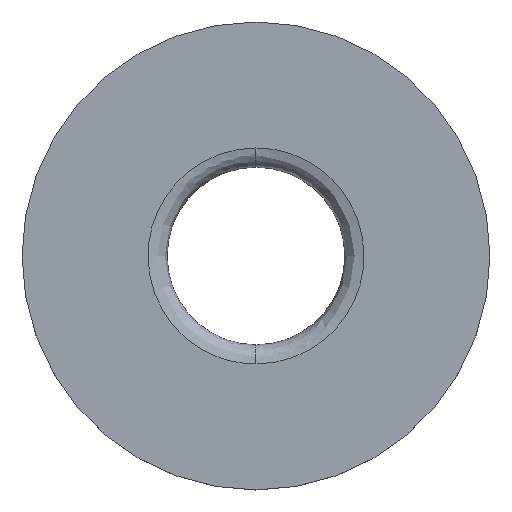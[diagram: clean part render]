
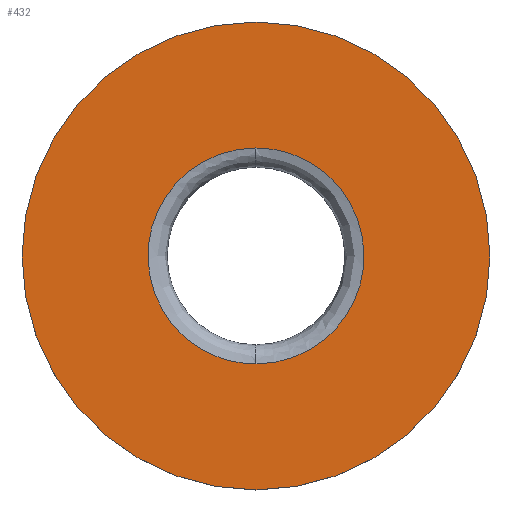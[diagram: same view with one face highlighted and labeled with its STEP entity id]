
A CAD part, top view. The second image highlights one B-rep face of the part: STEP entity #432.
In plain terms, the highlighted planar face has unit normal (0, 0, 1).
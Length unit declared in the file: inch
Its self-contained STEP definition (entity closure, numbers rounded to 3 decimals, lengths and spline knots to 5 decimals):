
#9 = VERTEX_POINT ( 'NONE', #387 ) ;
#15 = DIRECTION ( 'NONE',  ( 1., 0., 0. ) ) ;
#20 = ORIENTED_EDGE ( 'NONE', *, *, #405, .F. ) ;
#36 = DIRECTION ( 'NONE',  ( 0., 0., -1. ) ) ;
#42 = EDGE_CURVE ( 'NONE', #139, #9, #317, .T. ) ;
#45 = DIRECTION ( 'NONE',  ( 0., 0., 1. ) ) ;
#51 = CIRCLE ( 'NONE', #207, 0.4875 ) ;
#53 = CARTESIAN_POINT ( 'NONE',  ( 6.75, 2.66375, 12.64075 ) ) ;
#55 = CARTESIAN_POINT ( 'NONE',  ( 6.2625, 3., 12.64075 ) ) ;
#65 = VERTEX_POINT ( 'NONE', #55 ) ;
#68 = CARTESIAN_POINT ( 'NONE',  ( 6.75, 2.775, 12.64075 ) ) ;
#70 = DIRECTION ( 'NONE',  ( 0., 0., -1. ) ) ;
#104 = ORIENTED_EDGE ( 'NONE', *, *, #260, .F. ) ;
#106 = CARTESIAN_POINT ( 'NONE',  ( 6.3, 3.225, 12.64075 ) ) ;
#111 = ORIENTED_EDGE ( 'NONE', *, *, #363, .F. ) ;
#120 = PLANE ( 'NONE',  #320 ) ;
#139 = VERTEX_POINT ( 'NONE', #331 ) ;
#148 = CARTESIAN_POINT ( 'NONE',  ( 7.2, 3.225, 12.64075 ) ) ;
#168 = CARTESIAN_POINT ( 'NONE',  ( 7.2375, 3., 12.64075 ) ) ;
#191 = CARTESIAN_POINT ( 'NONE',  ( 6.75, 3.225, 12.64075 ) ) ;
#207 = AXIS2_PLACEMENT_3D ( 'NONE', #431, #70, #278 ) ;
#221 = FACE_BOUND ( 'NONE', #433, .T. ) ;
#238 = CARTESIAN_POINT ( 'NONE',  ( 6.3, 2.775, 12.64075 ) ) ;
#257 = CARTESIAN_POINT ( 'NONE',  ( 7.2, 2.775, 12.64075 ) ) ;
#260 = EDGE_CURVE ( 'NONE', #381, #65, #355, .T. ) ;
#276 = AXIS2_PLACEMENT_3D ( 'NONE', #382, #36, #300 ) ;
#278 = DIRECTION ( 'NONE',  ( 1., 0., 0. ) ) ;
#283 = FACE_OUTER_BOUND ( 'NONE', #359, .T. ) ;
#290 = CARTESIAN_POINT ( 'NONE',  ( 6.75, 2.775, 12.64075 ) ) ;
#300 = DIRECTION ( 'NONE',  ( 1., 0., 0. ) ) ;
#317 =( BOUNDED_CURVE ( )  B_SPLINE_CURVE ( 3, ( #290, #257, #148, #191 ),
 .UNSPECIFIED., .F., .T. ) 
 B_SPLINE_CURVE_WITH_KNOTS ( ( 4, 4 ),
 ( 0., 1. ),
 .UNSPECIFIED. ) 
 CURVE ( )  GEOMETRIC_REPRESENTATION_ITEM ( )  RATIONAL_B_SPLINE_CURVE ( ( 1., 0.333, 0.333, 1. ) ) 
 REPRESENTATION_ITEM ( '' )  );
#320 = AXIS2_PLACEMENT_3D ( 'NONE', #53, #45, #15 ) ;
#331 = CARTESIAN_POINT ( 'NONE',  ( 6.75, 2.775, 12.64075 ) ) ;
#343 = ORIENTED_EDGE ( 'NONE', *, *, #42, .F. ) ;
#355 = CIRCLE ( 'NONE', #276, 0.4875 ) ;
#359 = EDGE_LOOP ( 'NONE', ( #104, #20 ) ) ;
#363 = EDGE_CURVE ( 'NONE', #9, #139, #403, .T. ) ;
#381 = VERTEX_POINT ( 'NONE', #168 ) ;
#382 = CARTESIAN_POINT ( 'NONE',  ( 6.75, 3., 12.64075 ) ) ;
#387 = CARTESIAN_POINT ( 'NONE',  ( 6.75, 3.225, 12.64075 ) ) ;
#403 =( BOUNDED_CURVE ( )  B_SPLINE_CURVE ( 3, ( #406, #106, #238, #68 ),
 .UNSPECIFIED., .F., .T. ) 
 B_SPLINE_CURVE_WITH_KNOTS ( ( 4, 4 ),
 ( 0., 1. ),
 .UNSPECIFIED. ) 
 CURVE ( )  GEOMETRIC_REPRESENTATION_ITEM ( )  RATIONAL_B_SPLINE_CURVE ( ( 1., 0.333, 0.333, 1. ) ) 
 REPRESENTATION_ITEM ( '' )  );
#405 = EDGE_CURVE ( 'NONE', #65, #381, #51, .T. ) ;
#406 = CARTESIAN_POINT ( 'NONE',  ( 6.75, 3.225, 12.64075 ) ) ;
#431 = CARTESIAN_POINT ( 'NONE',  ( 6.75, 3., 12.64075 ) ) ;
#432 = ADVANCED_FACE ( 'NONE', ( #221, #283 ), #120, .T. ) ;
#433 = EDGE_LOOP ( 'NONE', ( #343, #111 ) ) ;
